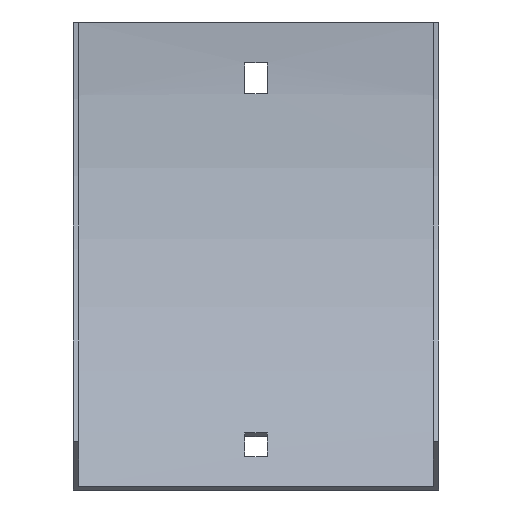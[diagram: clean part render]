
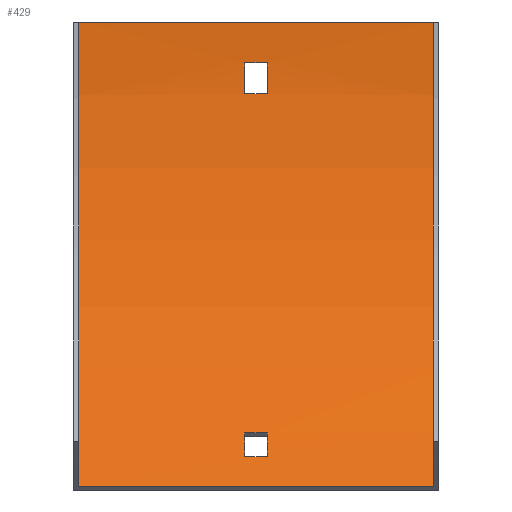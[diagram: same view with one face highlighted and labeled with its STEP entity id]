
A CAD part, front view. The second image highlights one B-rep face of the part: STEP entity #429.
In plain terms, the highlighted cylindrical face has radius 192.5 mm (diameter 385 mm), a partial arc.
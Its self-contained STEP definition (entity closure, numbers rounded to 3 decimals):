
#11 = CARTESIAN_POINT ( 'NONE',  ( 53.5, -1.874, -12. ) ) ;
#12 = VERTEX_POINT ( 'NONE', #243 ) ;
#18 = LINE ( 'NONE', #11, #452 ) ;
#21 = ORIENTED_EDGE ( 'NONE', *, *, #584, .T. ) ;
#29 = CARTESIAN_POINT ( 'NONE',  ( 3.25, -194., 0. ) ) ;
#32 = FACE_BOUND ( 'NONE', #529, .T. ) ;
#36 = VECTOR ( 'NONE', #282, 1000. ) ;
#41 = CARTESIAN_POINT ( 'NONE',  ( -3.25, -49.661, -127.368 ) ) ;
#43 = EDGE_CURVE ( 'NONE', #391, #523, #350, .T. ) ;
#54 = DIRECTION ( 'NONE',  ( 0., 0., 1. ) ) ;
#56 = CARTESIAN_POINT ( 'NONE',  ( 53.5, -43.845, -120.456 ) ) ;
#60 = AXIS2_PLACEMENT_3D ( 'NONE', #561, #187, #564 ) ;
#61 = ORIENTED_EDGE ( 'NONE', *, *, #287, .F. ) ;
#63 = CARTESIAN_POINT ( 'NONE',  ( -3.25, -43.845, -120.456 ) ) ;
#64 = CARTESIAN_POINT ( 'NONE',  ( 53.5, -2.649, -21. ) ) ;
#67 = AXIS2_PLACEMENT_3D ( 'NONE', #322, #410, #179 ) ;
#79 = DIRECTION ( 'NONE',  ( -1., 0., 0. ) ) ;
#88 = CYLINDRICAL_SURFACE ( 'NONE', #553, 192.5 ) ;
#95 = FACE_BOUND ( 'NONE', #550, .T. ) ;
#97 = EDGE_CURVE ( 'NONE', #547, #213, #588, .T. ) ;
#109 = EDGE_CURVE ( 'NONE', #286, #488, #485, .T. ) ;
#119 = DIRECTION ( 'NONE',  ( -1., 0., 0. ) ) ;
#134 = CIRCLE ( 'NONE', #210, 192.5 ) ;
#135 = LINE ( 'NONE', #384, #36 ) ;
#141 = CARTESIAN_POINT ( 'NONE',  ( -3.25, -2.649, -21. ) ) ;
#147 = DIRECTION ( 'NONE',  ( -1., 0., 0. ) ) ;
#164 = CARTESIAN_POINT ( 'NONE',  ( 3.25, -49.661, -127.368 ) ) ;
#168 = DIRECTION ( 'NONE',  ( -1., 0., 0. ) ) ;
#179 = DIRECTION ( 'NONE',  ( 0., 0., -1. ) ) ;
#187 = DIRECTION ( 'NONE',  ( -1., 0., 0. ) ) ;
#190 = ORIENTED_EDGE ( 'NONE', *, *, #602, .F. ) ;
#198 = CARTESIAN_POINT ( 'NONE',  ( 3.25, -43.845, -120.456 ) ) ;
#199 = ORIENTED_EDGE ( 'NONE', *, *, #43, .T. ) ;
#210 = AXIS2_PLACEMENT_3D ( 'NONE', #302, #358, #54 ) ;
#211 = CARTESIAN_POINT ( 'NONE',  ( 3.25, -2.649, -21. ) ) ;
#213 = VERTEX_POINT ( 'NONE', #291 ) ;
#214 = CARTESIAN_POINT ( 'NONE',  ( 52., -57.882, -136.118 ) ) ;
#221 = AXIS2_PLACEMENT_3D ( 'NONE', #589, #368, #318 ) ;
#223 = ORIENTED_EDGE ( 'NONE', *, *, #483, .T. ) ;
#224 = DIRECTION ( 'NONE',  ( 1., 0., 0. ) ) ;
#226 = AXIS2_PLACEMENT_3D ( 'NONE', #578, #299, #306 ) ;
#243 = CARTESIAN_POINT ( 'NONE',  ( 3.25, -1.874, -12. ) ) ;
#246 = ORIENTED_EDGE ( 'NONE', *, *, #263, .F. ) ;
#249 = ORIENTED_EDGE ( 'NONE', *, *, #549, .T. ) ;
#263 = EDGE_CURVE ( 'NONE', #488, #373, #492, .T. ) ;
#267 = ORIENTED_EDGE ( 'NONE', *, *, #283, .T. ) ;
#270 = CARTESIAN_POINT ( 'NONE',  ( -3.25, -1.874, -12. ) ) ;
#271 = DIRECTION ( 'NONE',  ( 0., 0., 1. ) ) ;
#282 = DIRECTION ( 'NONE',  ( -1., 0., 0. ) ) ;
#283 = EDGE_CURVE ( 'NONE', #523, #587, #346, .T. ) ;
#286 = VERTEX_POINT ( 'NONE', #270 ) ;
#287 = EDGE_CURVE ( 'NONE', #373, #12, #576, .T. ) ;
#291 = CARTESIAN_POINT ( 'NONE',  ( 52., -1.5, 0. ) ) ;
#299 = DIRECTION ( 'NONE',  ( 1., 0., 0. ) ) ;
#302 = CARTESIAN_POINT ( 'NONE',  ( -52., -194., 0. ) ) ;
#306 = DIRECTION ( 'NONE',  ( 0., 0., -1. ) ) ;
#307 = CARTESIAN_POINT ( 'NONE',  ( -52., -57.882, -136.118 ) ) ;
#318 = DIRECTION ( 'NONE',  ( 0., 0., 1. ) ) ;
#322 = CARTESIAN_POINT ( 'NONE',  ( 3.25, -194., 0. ) ) ;
#330 = ORIENTED_EDGE ( 'NONE', *, *, #559, .F. ) ;
#344 = VERTEX_POINT ( 'NONE', #307 ) ;
#346 = CIRCLE ( 'NONE', #544, 192.5 ) ;
#350 = LINE ( 'NONE', #56, #519 ) ;
#357 = ORIENTED_EDGE ( 'NONE', *, *, #109, .F. ) ;
#358 = DIRECTION ( 'NONE',  ( 1., 0., 0. ) ) ;
#359 = VECTOR ( 'NONE', #447, 1000. ) ;
#368 = DIRECTION ( 'NONE',  ( 1., 0., 0. ) ) ;
#373 = VERTEX_POINT ( 'NONE', #211 ) ;
#384 = CARTESIAN_POINT ( 'NONE',  ( 53.5, -49.661, -127.368 ) ) ;
#389 = CIRCLE ( 'NONE', #226, 192.5 ) ;
#391 = VERTEX_POINT ( 'NONE', #63 ) ;
#396 = DIRECTION ( 'NONE',  ( 1., 0., 0. ) ) ;
#405 = VECTOR ( 'NONE', #168, 1000. ) ;
#410 = DIRECTION ( 'NONE',  ( 1., 0., 0. ) ) ;
#419 = FACE_OUTER_BOUND ( 'NONE', #430, .T. ) ;
#420 = ORIENTED_EDGE ( 'NONE', *, *, #97, .T. ) ;
#429 = ADVANCED_FACE ( 'NONE', ( #32, #419, #95 ), #88, .F. ) ;
#430 = EDGE_LOOP ( 'NONE', ( #190, #449, #420, #21 ) ) ;
#447 = DIRECTION ( 'NONE',  ( -1., 0., 0. ) ) ;
#449 = ORIENTED_EDGE ( 'NONE', *, *, #605, .F. ) ;
#452 = VECTOR ( 'NONE', #119, 1000. ) ;
#455 = VERTEX_POINT ( 'NONE', #41 ) ;
#457 = VERTEX_POINT ( 'NONE', #597 ) ;
#479 = CARTESIAN_POINT ( 'NONE',  ( 52., -1.5, 0. ) ) ;
#481 = VECTOR ( 'NONE', #224, 1000. ) ;
#483 = EDGE_CURVE ( 'NONE', #587, #455, #135, .T. ) ;
#485 = CIRCLE ( 'NONE', #60, 192.5 ) ;
#488 = VERTEX_POINT ( 'NONE', #141 ) ;
#492 = LINE ( 'NONE', #64, #481 ) ;
#495 = CARTESIAN_POINT ( 'NONE',  ( 52., -57.882, -136.118 ) ) ;
#499 = LINE ( 'NONE', #479, #405 ) ;
#514 = CARTESIAN_POINT ( 'NONE',  ( 53.5, -194., 0. ) ) ;
#519 = VECTOR ( 'NONE', #396, 1000. ) ;
#523 = VERTEX_POINT ( 'NONE', #198 ) ;
#529 = EDGE_LOOP ( 'NONE', ( #357, #330, #61, #246 ) ) ;
#544 = AXIS2_PLACEMENT_3D ( 'NONE', #29, #79, #271 ) ;
#547 = VERTEX_POINT ( 'NONE', #214 ) ;
#549 = EDGE_CURVE ( 'NONE', #455, #391, #389, .T. ) ;
#550 = EDGE_LOOP ( 'NONE', ( #223, #249, #199, #267 ) ) ;
#553 = AXIS2_PLACEMENT_3D ( 'NONE', #514, #147, #556 ) ;
#556 = DIRECTION ( 'NONE',  ( 0., 0., 1. ) ) ;
#559 = EDGE_CURVE ( 'NONE', #12, #286, #18, .T. ) ;
#561 = CARTESIAN_POINT ( 'NONE',  ( -3.25, -194., 0. ) ) ;
#564 = DIRECTION ( 'NONE',  ( 0., 0., 1. ) ) ;
#575 = LINE ( 'NONE', #495, #359 ) ;
#576 = CIRCLE ( 'NONE', #67, 192.5 ) ;
#578 = CARTESIAN_POINT ( 'NONE',  ( -3.25, -194., 0. ) ) ;
#584 = EDGE_CURVE ( 'NONE', #213, #457, #499, .T. ) ;
#587 = VERTEX_POINT ( 'NONE', #164 ) ;
#588 = CIRCLE ( 'NONE', #221, 192.5 ) ;
#589 = CARTESIAN_POINT ( 'NONE',  ( 52., -194., 0. ) ) ;
#597 = CARTESIAN_POINT ( 'NONE',  ( -52., -1.5, 0. ) ) ;
#602 = EDGE_CURVE ( 'NONE', #344, #457, #134, .T. ) ;
#605 = EDGE_CURVE ( 'NONE', #547, #344, #575, .T. ) ;
